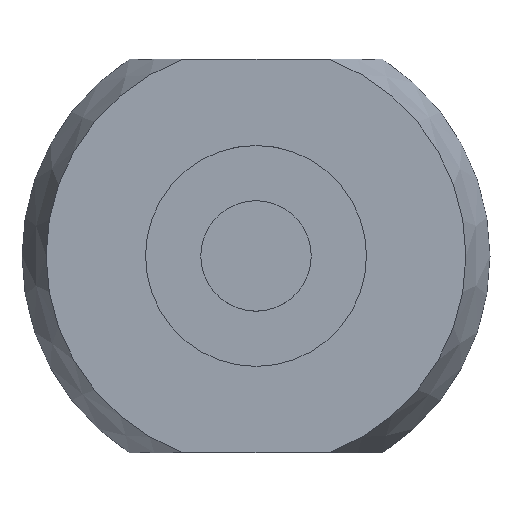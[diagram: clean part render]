
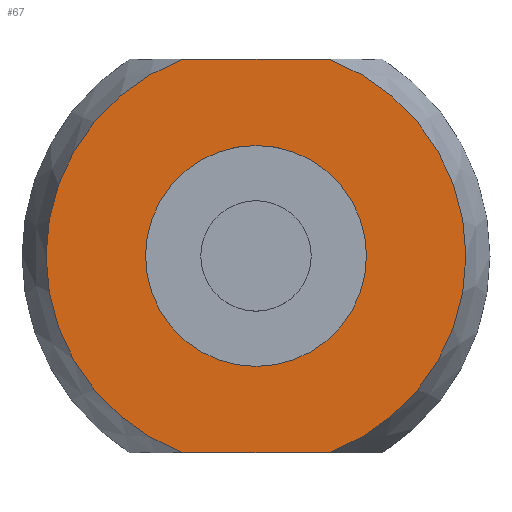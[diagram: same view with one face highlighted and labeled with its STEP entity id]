
A CAD part, top view. The second image highlights one B-rep face of the part: STEP entity #67.
In plain terms, the highlighted planar face has unit normal (0, 0, 1).
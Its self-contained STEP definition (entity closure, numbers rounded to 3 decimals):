
#38=PLANE('',#194);
#46=LINE('',#295,#50);
#47=LINE('',#296,#51);
#50=VECTOR('',#229,1.);
#51=VECTOR('',#230,1.);
#54=FACE_BOUND('',#88,.T.);
#55=FACE_BOUND('',#89,.T.);
#67=ADVANCED_FACE('',(#54,#55),#38,.F.);
#88=EDGE_LOOP('',(#119));
#89=EDGE_LOOP('',(#120,#121,#122,#123));
#119=ORIENTED_EDGE('',*,*,#167,.F.);
#120=ORIENTED_EDGE('',*,*,#168,.F.);
#121=ORIENTED_EDGE('',*,*,#158,.F.);
#122=ORIENTED_EDGE('',*,*,#169,.F.);
#123=ORIENTED_EDGE('',*,*,#160,.F.);
#144=VERTEX_POINT('',#265);
#145=VERTEX_POINT('',#267);
#146=VERTEX_POINT('',#274);
#147=VERTEX_POINT('',#275);
#151=VERTEX_POINT('',#294);
#158=EDGE_CURVE('',#144,#145,#175,.T.);
#160=EDGE_CURVE('',#146,#147,#176,.T.);
#167=EDGE_CURVE('',#151,#151,#179,.T.);
#168=EDGE_CURVE('',#145,#146,#46,.T.);
#169=EDGE_CURVE('',#147,#144,#47,.T.);
#175=CIRCLE('',#186,9.5);
#176=CIRCLE('',#188,9.5);
#179=CIRCLE('',#193,5.);
#186=AXIS2_PLACEMENT_3D('',#266,#211,#212);
#188=AXIS2_PLACEMENT_3D('',#273,#215,#216);
#193=AXIS2_PLACEMENT_3D('',#293,#227,#228);
#194=AXIS2_PLACEMENT_3D('',#297,#231,#232);
#211=DIRECTION('',(0.,0.,-1.));
#212=DIRECTION('',(-1.,0.,0.));
#215=DIRECTION('',(0.,0.,-1.));
#216=DIRECTION('',(-1.,0.,0.));
#227=DIRECTION('',(0.,0.,1.));
#228=DIRECTION('',(1.,0.,0.));
#229=DIRECTION('',(-1.,0.,0.));
#230=DIRECTION('',(1.,0.,0.));
#231=DIRECTION('',(0.,0.,-1.));
#232=DIRECTION('',(-1.,0.,0.));
#265=CARTESIAN_POINT('',(3.323,8.9,0.));
#266=CARTESIAN_POINT('',(0.,0.,0.));
#267=CARTESIAN_POINT('',(3.323,-8.9,0.));
#273=CARTESIAN_POINT('',(0.,0.,0.));
#274=CARTESIAN_POINT('',(-3.323,-8.9,0.));
#275=CARTESIAN_POINT('',(-3.323,8.9,0.));
#293=CARTESIAN_POINT('',(0.,0.,0.));
#294=CARTESIAN_POINT('',(5.,0.,0.));
#295=CARTESIAN_POINT('',(10.592,-8.9,0.));
#296=CARTESIAN_POINT('',(-10.592,8.9,0.));
#297=CARTESIAN_POINT('',(0.,0.,0.));
